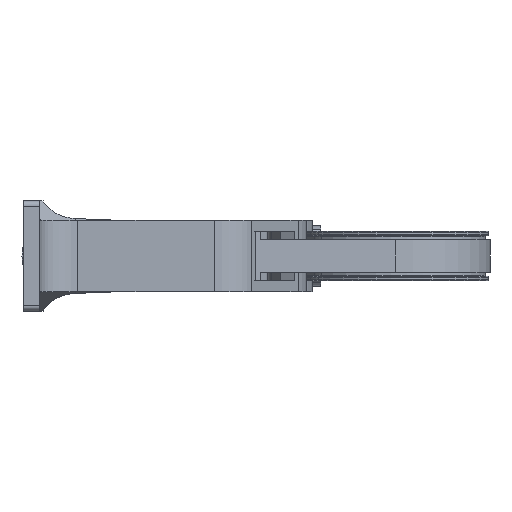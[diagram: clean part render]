
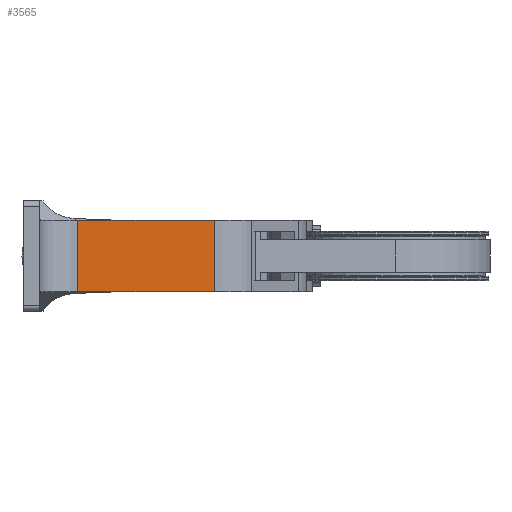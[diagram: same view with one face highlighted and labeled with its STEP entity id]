
A CAD part, front view. The second image highlights one B-rep face of the part: STEP entity #3565.
In plain terms, the highlighted planar face has unit normal (0, -1, 0) as drawn and (-1, 0, 0) by its records, which use the part's own axes.
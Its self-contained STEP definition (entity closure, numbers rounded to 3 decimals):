
#131=PLANE('',#3899);
#320=FACE_OUTER_BOUND('',#520,.T.);
#520=EDGE_LOOP('',(#2746,#2747,#2748,#2749));
#942=LINE('',#6011,#1246);
#975=LINE('',#6116,#1279);
#1031=LINE('',#6638,#1335);
#1036=LINE('',#6651,#1340);
#1246=VECTOR('',#4306,10.);
#1279=VECTOR('',#4391,10.);
#1335=VECTOR('',#4551,10.);
#1340=VECTOR('',#4564,10.);
#1586=VERTEX_POINT('',#6008);
#1587=VERTEX_POINT('',#6010);
#1632=VERTEX_POINT('',#6113);
#1633=VERTEX_POINT('',#6115);
#1951=EDGE_CURVE('',#1587,#1586,#942,.T.);
#2003=EDGE_CURVE('',#1633,#1632,#975,.T.);
#2092=EDGE_CURVE('',#1633,#1586,#1031,.T.);
#2099=EDGE_CURVE('',#1632,#1587,#1036,.T.);
#2746=ORIENTED_EDGE('',*,*,#2003,.T.);
#2747=ORIENTED_EDGE('',*,*,#2099,.T.);
#2748=ORIENTED_EDGE('',*,*,#1951,.T.);
#2749=ORIENTED_EDGE('',*,*,#2092,.F.);
#3565=ADVANCED_FACE('',(#320),#131,.T.);
#3899=AXIS2_PLACEMENT_3D('',#6650,#4562,#4563);
#4306=DIRECTION('',(0.,1.,0.));
#4391=DIRECTION('',(0.,-1.,0.));
#4551=DIRECTION('',(0.,0.,1.));
#4562=DIRECTION('center_axis',(-1.,0.,0.));
#4563=DIRECTION('ref_axis',(0.,-1.,0.));
#4564=DIRECTION('',(0.,0.,1.));
#6008=CARTESIAN_POINT('',(-84.914,25.023,6.5));
#6010=CARTESIAN_POINT('',(-84.914,0.,6.5));
#6011=CARTESIAN_POINT('',(-84.914,12.511,6.5));
#6113=CARTESIAN_POINT('',(-84.914,0.,-6.5));
#6115=CARTESIAN_POINT('',(-84.914,25.023,-6.5));
#6116=CARTESIAN_POINT('',(-84.914,12.511,-6.5));
#6638=CARTESIAN_POINT('',(-84.914,25.023,0.));
#6650=CARTESIAN_POINT('Origin',(-84.914,25.023,0.));
#6651=CARTESIAN_POINT('',(-84.914,0.,0.));
